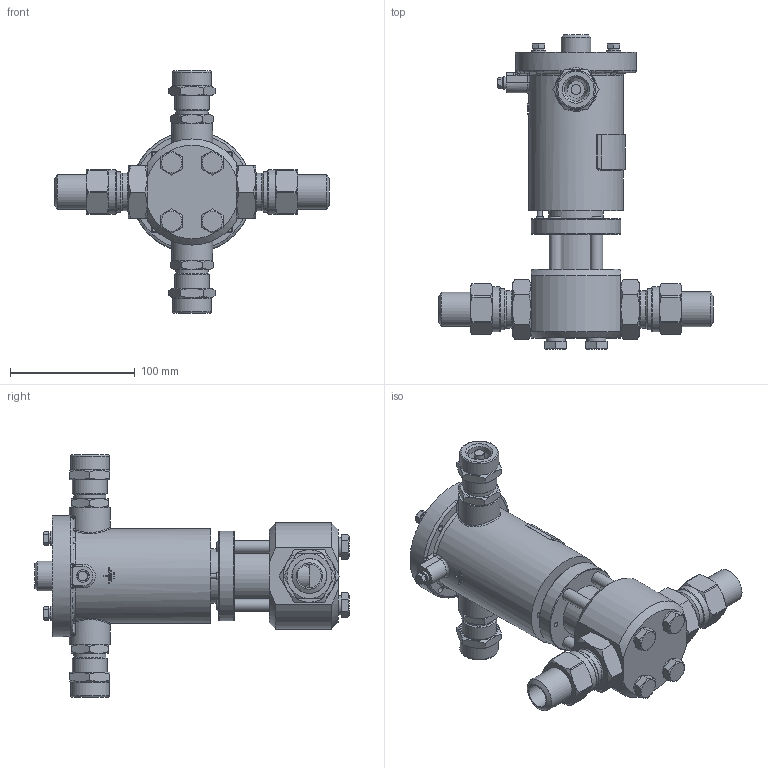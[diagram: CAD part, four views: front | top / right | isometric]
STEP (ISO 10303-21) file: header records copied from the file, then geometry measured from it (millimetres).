
FILE_DESCRIPTION(('STEP AP203'), '1');
FILE_NAME('ÑÅÍÑ-ÏÐ DN20PN250-ÑÂ-G1-1.stp', '2018-10-23T11:30:34', ('Îðëîâ Å.Â.'), ('ÎÎÎ ÍÏÏ Ñåíñîð'), 'ASCON STEP Converter 1.3', 'Kompas 3D', '');
FILE_SCHEMA(('CONFIG_CONTROL_DESIGN','SUPPORT_RESOURCE_SCHEMA'));
Length unit declared in the file: millimetre
Products named in the file (1): 3
Bounding box: 219.72 x 251.9 x 194 mm (x, y, z)
Volume: 788568.9 mm3; surface area: 242855.4 mm2
Topology: 3 solids, 23 shells, 1956 faces, 5158 edges, 3353 vertices
Faces by surface type: cylinder 979, plane 709, cone 196, bspline 29, torus 25, extrusion 16, sphere 2
Full cylindrical faces by diameter (mm): 2.459 x4, 4 x8, 4.134 x1, 4.5 x2, 4.917 x4, 5 x3, 6 x9, 6.5 x6, 8 x4, 10 x10, 11 x4, 12 x4, 13 x2, 18.632 x2, 19 x2, 20 x6, 22 x2, 22.376 x2, 23.5 x2, 24 x3, 24.5 x2, 25 x2, 26 x6, 26.376 x2, 27.8 x2, 28 x4, 28.5 x1, 29 x2, 30 x5, 30.291 x4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
Entity records: 75312 total; most frequent: CARTESIAN_POINT 25705, DIRECTION 10752, ORIENTED_EDGE 10294, EDGE_CURVE 5147, AXIS2_PLACEMENT_3D 4150, VERTEX_POINT 3353, VECTOR 2452, LINE 2436
